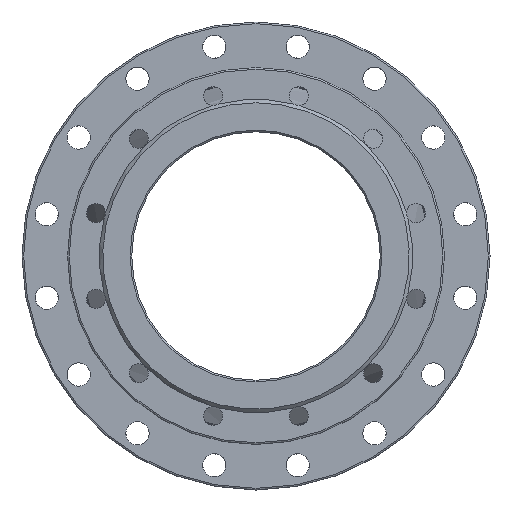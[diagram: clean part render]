
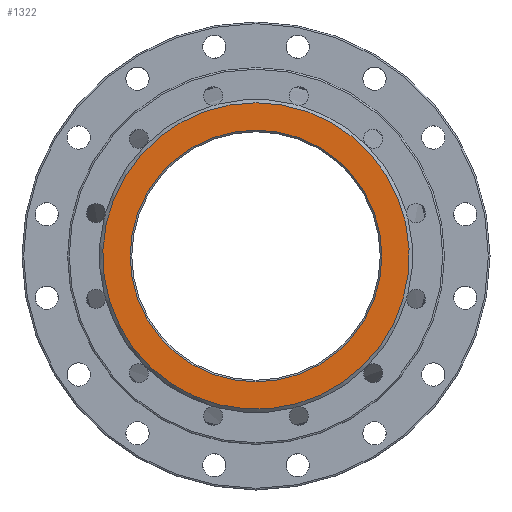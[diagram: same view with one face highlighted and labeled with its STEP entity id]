
A CAD part, left-side view. The second image highlights one B-rep face of the part: STEP entity #1322.
In plain terms, the highlighted planar face has unit normal (-1, 0, 0).
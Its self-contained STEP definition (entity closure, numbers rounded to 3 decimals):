
#77 = ORIENTED_EDGE ( 'NONE', *, *, #3778, .T. ) ;
#215 = CARTESIAN_POINT ( 'NONE',  ( 0., 0., 185. ) ) ;
#232 = DIRECTION ( 'NONE',  ( 1., 0., 0. ) ) ;
#623 = AXIS2_PLACEMENT_3D ( 'NONE', #2026, #3216, #3591 ) ;
#647 = EDGE_LOOP ( 'NONE', ( #2233 ) ) ;
#939 = AXIS2_PLACEMENT_3D ( 'NONE', #1188, #2387, #3568 ) ;
#1188 = CARTESIAN_POINT ( 'NONE',  ( 0., 150., 0. ) ) ;
#1204 = EDGE_CURVE ( 'NONE', #3710, #3710, #2874, .T. ) ;
#1322 = ADVANCED_FACE ( 'NONE', ( #1756, #3006 ), #3839, .F. ) ;
#1424 = DIRECTION ( 'NONE',  ( 0., 0., -1. ) ) ;
#1692 = AXIS2_PLACEMENT_3D ( 'NONE', #3200, #232, #1424 ) ;
#1756 = FACE_BOUND ( 'NONE', #647, .T. ) ;
#1758 = VERTEX_POINT ( 'NONE', #215 ) ;
#2026 = CARTESIAN_POINT ( 'NONE',  ( 0., 0., 0. ) ) ;
#2233 = ORIENTED_EDGE ( 'NONE', *, *, #1204, .T. ) ;
#2387 = DIRECTION ( 'NONE',  ( 1., 0., 0. ) ) ;
#2874 = CIRCLE ( 'NONE', #1692, 152. ) ;
#3006 = FACE_OUTER_BOUND ( 'NONE', #3418, .T. ) ;
#3200 = CARTESIAN_POINT ( 'NONE',  ( 0., 0., 0. ) ) ;
#3216 = DIRECTION ( 'NONE',  ( -1., 0., 0. ) ) ;
#3308 = CIRCLE ( 'NONE', #623, 185. ) ;
#3418 = EDGE_LOOP ( 'NONE', ( #77 ) ) ;
#3434 = CARTESIAN_POINT ( 'NONE',  ( 0., 0., -152. ) ) ;
#3568 = DIRECTION ( 'NONE',  ( 0., 0., -1. ) ) ;
#3591 = DIRECTION ( 'NONE',  ( 0., 0., 1. ) ) ;
#3710 = VERTEX_POINT ( 'NONE', #3434 ) ;
#3778 = EDGE_CURVE ( 'NONE', #1758, #1758, #3308, .T. ) ;
#3839 = PLANE ( 'NONE',  #939 ) ;
